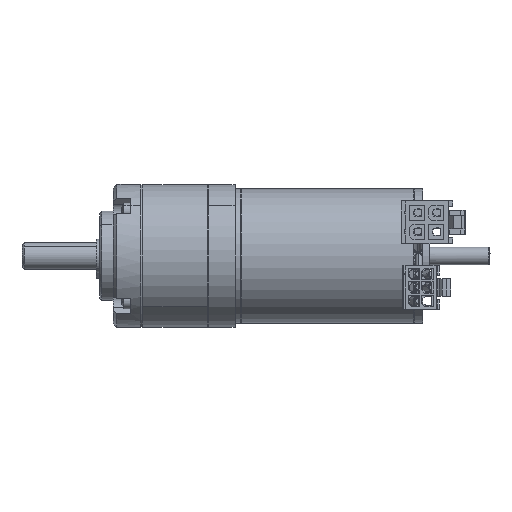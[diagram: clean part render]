
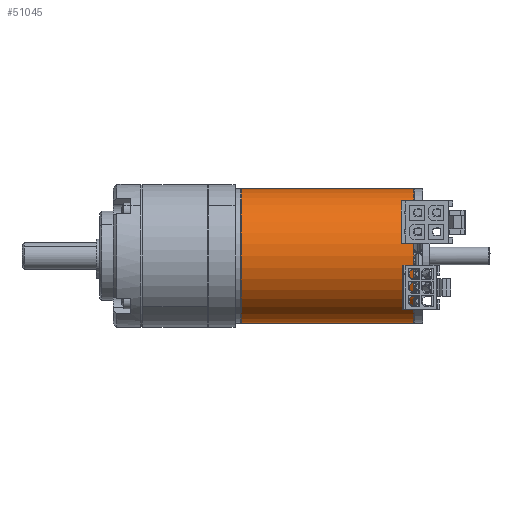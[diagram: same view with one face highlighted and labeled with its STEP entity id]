
A CAD part, front view. The second image highlights one B-rep face of the part: STEP entity #51045.
In plain terms, the highlighted cylindrical face has radius 15 mm (diameter 30 mm), a partial arc.
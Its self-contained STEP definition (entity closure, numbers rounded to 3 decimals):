
#703 = EDGE_CURVE ( 'NONE', #13953, #34591, #56245, .T. ) ;
#4934 = ORIENTED_EDGE ( 'NONE', *, *, #70050, .T. ) ;
#5251 = EDGE_CURVE ( 'NONE', #44696, #13953, #45179, .T. ) ;
#6293 = CARTESIAN_POINT ( 'NONE',  ( 1.409, 0., 0. ) ) ;
#7116 = CARTESIAN_POINT ( 'NONE',  ( 40., 0., -15. ) ) ;
#8383 = AXIS2_PLACEMENT_3D ( 'NONE', #31901, #32414, #9390 ) ;
#8864 = CARTESIAN_POINT ( 'NONE',  ( 40., 0., 15. ) ) ;
#9390 = DIRECTION ( 'NONE',  ( 0., 0., 1. ) ) ;
#10536 = CARTESIAN_POINT ( 'NONE',  ( 1.409, 0., -15. ) ) ;
#11634 = LINE ( 'NONE', #35226, #34824 ) ;
#13804 = VERTEX_POINT ( 'NONE', #7116 ) ;
#13953 = VERTEX_POINT ( 'NONE', #31080 ) ;
#15853 = CARTESIAN_POINT ( 'NONE',  ( 40., 0., 0. ) ) ;
#20118 = CARTESIAN_POINT ( 'NONE',  ( 60.85, 0., 15. ) ) ;
#23534 = DIRECTION ( 'NONE',  ( 1., 0., 0. ) ) ;
#26702 = AXIS2_PLACEMENT_3D ( 'NONE', #6293, #23534, #46627 ) ;
#30105 = VECTOR ( 'NONE', #55211, 1000. ) ;
#31080 = CARTESIAN_POINT ( 'NONE',  ( 1.409, 0., 15. ) ) ;
#31901 = CARTESIAN_POINT ( 'NONE',  ( 60.85, 0., 0. ) ) ;
#32203 = ORIENTED_EDGE ( 'NONE', *, *, #5251, .T. ) ;
#32414 = DIRECTION ( 'NONE',  ( -1., 0., 0. ) ) ;
#33107 = DIRECTION ( 'NONE',  ( -1., 0., 0. ) ) ;
#34591 = VERTEX_POINT ( 'NONE', #10536 ) ;
#34824 = VECTOR ( 'NONE', #69088, 1000. ) ;
#35226 = CARTESIAN_POINT ( 'NONE',  ( 60.85, 0., -15. ) ) ;
#35920 = FACE_OUTER_BOUND ( 'NONE', #62426, .T. ) ;
#37794 = ORIENTED_EDGE ( 'NONE', *, *, #703, .T. ) ;
#39644 = AXIS2_PLACEMENT_3D ( 'NONE', #15853, #33107, #67910 ) ;
#44696 = VERTEX_POINT ( 'NONE', #8864 ) ;
#45179 = LINE ( 'NONE', #20118, #30105 ) ;
#46627 = DIRECTION ( 'NONE',  ( 0., 0., 1. ) ) ;
#48677 = EDGE_CURVE ( 'NONE', #13804, #34591, #11634, .T. ) ;
#51045 = ADVANCED_FACE ( 'NONE', ( #35920 ), #60906, .T. ) ;
#55211 = DIRECTION ( 'NONE',  ( -1., 0., 0. ) ) ;
#55594 = ORIENTED_EDGE ( 'NONE', *, *, #48677, .F. ) ;
#56245 = CIRCLE ( 'NONE', #26702, 15. ) ;
#60906 = CYLINDRICAL_SURFACE ( 'NONE', #8383, 15. ) ;
#62426 = EDGE_LOOP ( 'NONE', ( #55594, #4934, #32203, #37794 ) ) ;
#63756 = CIRCLE ( 'NONE', #39644, 15. ) ;
#67910 = DIRECTION ( 'NONE',  ( 0., 0., 1. ) ) ;
#69088 = DIRECTION ( 'NONE',  ( -1., 0., 0. ) ) ;
#70050 = EDGE_CURVE ( 'NONE', #13804, #44696, #63756, .T. ) ;
